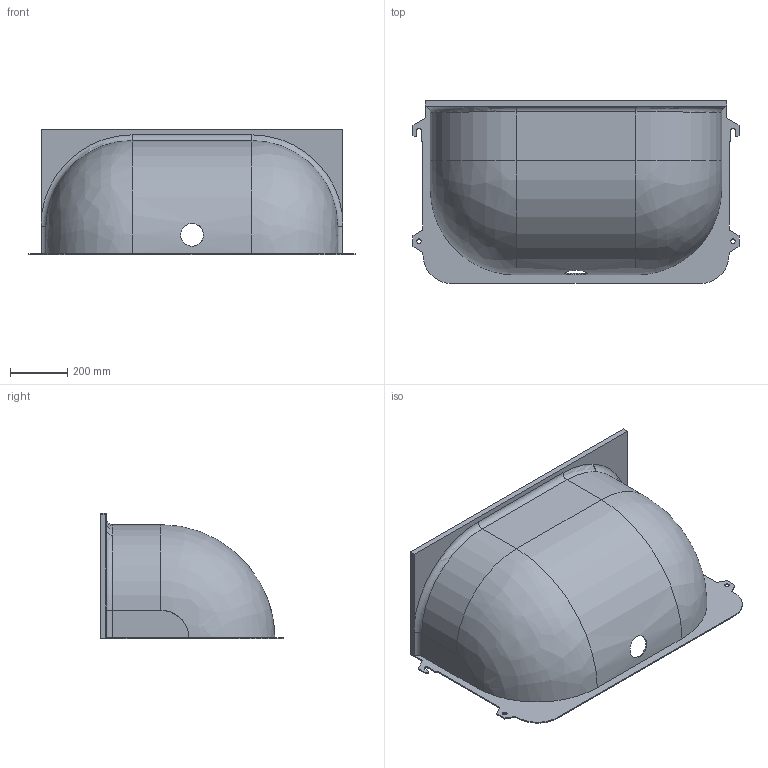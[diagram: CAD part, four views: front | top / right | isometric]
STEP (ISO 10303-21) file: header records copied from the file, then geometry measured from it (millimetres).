
FILE_DESCRIPTION(/* description */ (''),/* implementation_level */ '2;1');
FILE_NAME(/* name */ 'Q:\sge-bs-neu-2008\Marketing\CAD Zeichnungen\3D-CAD-Daten\3D Daten Website\- MEA Multinorm Kunststofflichtschacht\Step\Multinorm_100x60x40.stp',/* time_stamp */ '2019-02-14T11:00:52+01:00',/* author */ ('avgrahammj'),/* organization */ (''),/* preprocessor_version */ 'ST-DEVELOPER v16.1',/* originating_system */ 'Autodesk Inventor 2016',/* authorisation */ '');
FILE_SCHEMA (('AUTOMOTIVE_DESIGN { 1 0 10303 214 3 1 1 }'));
Length unit declared in the file: millimetre
Products named in the file (1): Multinorm_100x60x40
Bounding box: 1142 x 640 x 440 mm (x, y, z)
Volume: 4860168 mm3; surface area: 2450055.4 mm2
Topology: 1 solids, 1 shells, 71 faces, 195 edges, 126 vertices
Faces by surface type: plane 40, cylinder 23, torus 4, bspline 4
Full cylindrical faces by diameter (mm): 16 x2, 80 x1
Entity records: 2488 total; most frequent: CARTESIAN_POINT 642, ORIENTED_EDGE 384, DIRECTION 374, EDGE_CURVE 192, LINE 130, VECTOR 130, VERTEX_POINT 126, AXIS2_PLACEMENT_3D 122
